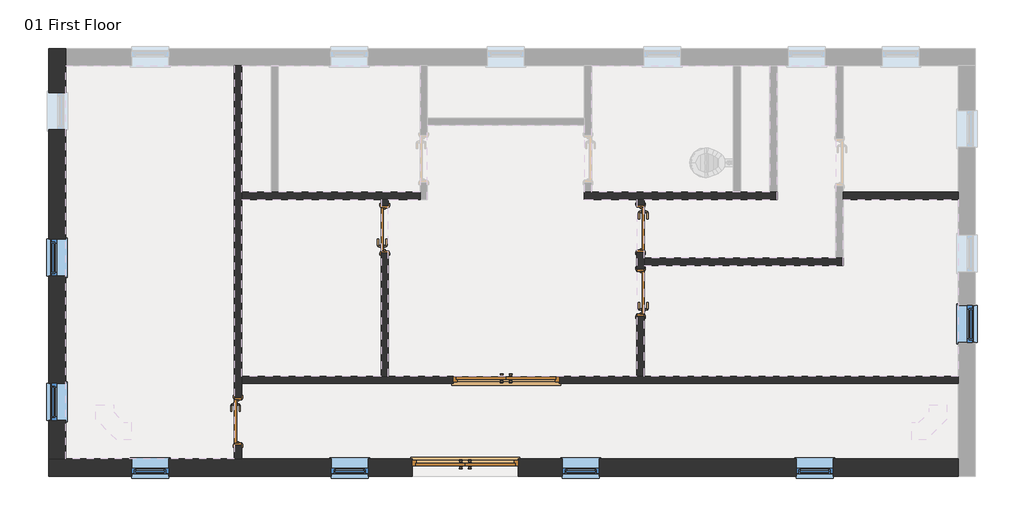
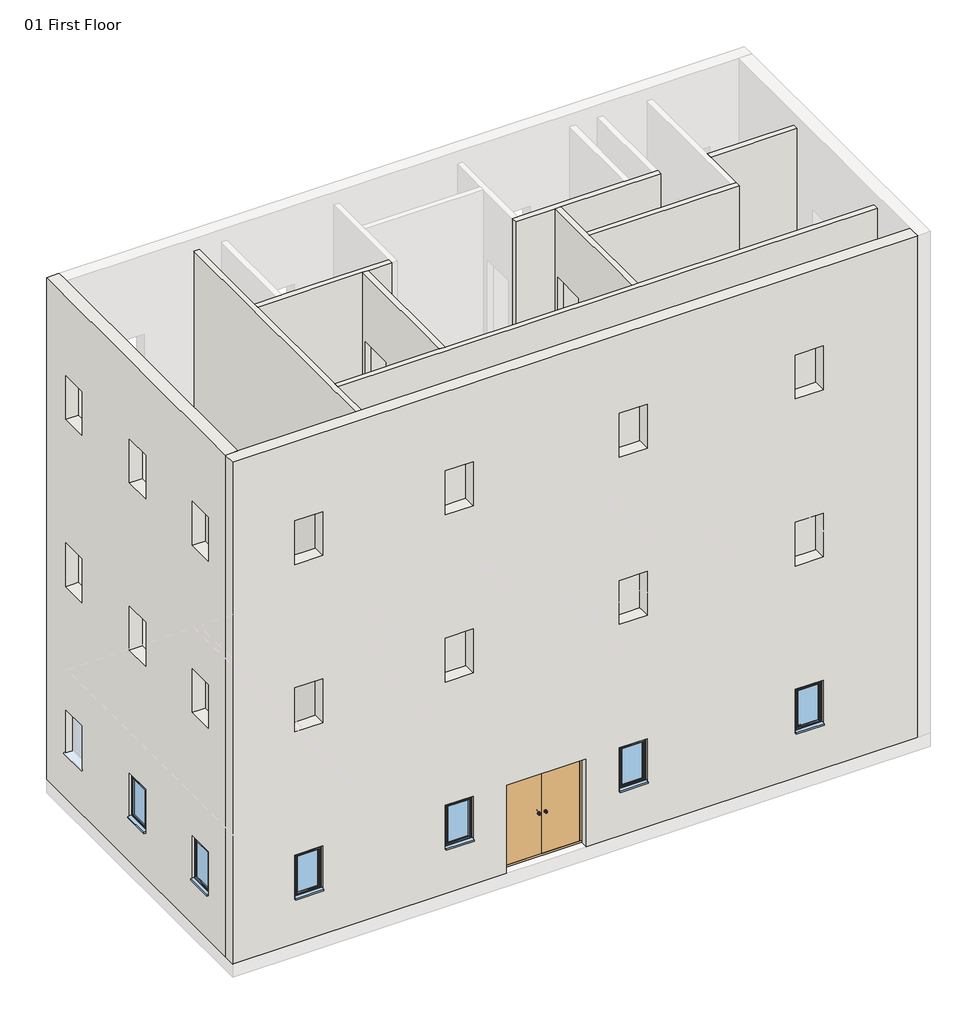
# One storey, part 1 of 2: 10 walls, 7 windows, 6 doors.
"""IFC4 building model written with IfcOpenShell, lengths in millimetres."""

from ifc_helpers import new_model, si_unit, frame, origin, origin_with_axes, place, context, project, spatial, polyline, outline, extrude, faceted_brep, transform, mapped, element, save
from components import extdbl_flush_1810_x_2110mm_6485e741, extdbl_flush_1810_x_2110mm_182ebfd7, intsgl_1_810_x_2110mm_5ef26f82, intsgl_1_810_x_2110mm_60c2a13c, sgl_plain_630_x_1050mm_deep_554a1539

model = new_model("IFC4")

# Units and contexts
model_context = context("Model", 3, world=origin())
ifc_project = project(units=[si_unit("LENGTHUNIT", "METRE", prefix="MILLI")], contexts=[model_context])

# Site, building, storey
site = spatial("IfcSite", under=ifc_project)
building = spatial("IfcBuilding", under=site)
storey = spatial("IfcBuildingStorey", under=building, Name="01 First Floor", Elevation=0.0)

# Doors
placement = place(None, origin())
extdbl_flush_1810_x_2110mm_shape = extdbl_flush_1810_x_2110mm_6485e741(model_context)
element("IfcDoor", 1, ObjectType="ExtDbl Flush : 1810 x 2110mm", at=placement, inside=storey, context=model_context, shape_type="MappedRepresentation", body=[
    mapped(extdbl_flush_1810_x_2110mm_shape, transform((500.7801388, -4965.3924179, 0.0), x_axis=(1.0, 0.0, 0.0), y_axis=(0.0, 1.0, 0.0), z_axis=(0.0, 0.0, 1.0))),
])
extdbl_flush_1810_x_2110mm_2_shape = extdbl_flush_1810_x_2110mm_182ebfd7(model_context)
element("IfcDoor", 2, ObjectType="ExtDbl Flush : 1810 x 2110mm", at=placement, inside=storey, context=model_context, shape_type="MappedRepresentation", body=[
    mapped(extdbl_flush_1810_x_2110mm_2_shape, transform((1196.9801388, -3470.3924179, 0.0), x_axis=(1.0, 0.0, 0.0), y_axis=(0.0, 1.0, 0.0), z_axis=(0.0, 0.0, 1.0))),
])
intsgl_1_810_x_2110mm_shape = intsgl_1_810_x_2110mm_5ef26f82(model_context)
element("IfcDoor", 3, ObjectType="IntSgl (1) : 810 x 2110mm", at=placement, inside=storey, context=model_context, shape_type="MappedRepresentation", body=[
    mapped(intsgl_1_810_x_2110mm_shape, transform((3489.4801388, -1982.8924179, 0.0), x_axis=(0.0, 1.0, 0.0), y_axis=(-1.0, 0.0, 0.0), z_axis=(0.0, 0.0, 1.0))),
])
intsgl_1_810_x_2110mm_2_shape = intsgl_1_810_x_2110mm_60c2a13c(model_context)
element("IfcDoor", 4, ObjectType="IntSgl (1) : 810 x 2110mm", at=placement, inside=storey, context=model_context, shape_type="MappedRepresentation", body=[
    mapped(intsgl_1_810_x_2110mm_2_shape, transform((-870.5198612, -902.8924179, 0.0), x_axis=(0.0, 1.0, 0.0), y_axis=(-1.0, 0.0, 0.0), z_axis=(0.0, 0.0, 1.0))),
])
element("IfcDoor", 5, ObjectType="IntSgl (1) : 810 x 2110mm", at=placement, inside=storey, context=model_context, shape_type="MappedRepresentation", body=[
    mapped(intsgl_1_810_x_2110mm_2_shape, transform((3489.4801388, -890.3924179, 0.0), x_axis=(0.0, -1.0, 0.0), y_axis=(1.0, 0.0, 0.0), z_axis=(0.0, 0.0, 1.0))),
])
element("IfcDoor", 6, ObjectType="IntSgl (1) : 810 x 2110mm", at=placement, inside=storey, context=model_context, shape_type="MappedRepresentation", body=[
    mapped(intsgl_1_810_x_2110mm_shape, transform((-3370.5198612, -4176.6424179, 0.0), x_axis=(0.0, -1.0, 0.0), y_axis=(1.0, 0.0, 0.0), z_axis=(0.0, 0.0, 1.0))),
])

# Walls
element("IfcWall", 7, ObjectType="Cav - 102 75i 100 p - Lwt", at=placement, inside=storey, context=model_context, shape_type="Brep", body=[
    faceted_brep([(1405.7801388, -5110.3924179, 2110.0), (1405.7801388, -5110.3924179, 0.0), (8901.9801388, -5110.3924179, 0.0), (8901.9801388, -5110.3924179, 12000.0), (-6598.0198612, -5110.3924179, 12000.0), (-6598.0198612, -5110.3924179, 0.0), (-404.2198612, -5110.3924179, 0.0), (-404.2198612, -5110.3924179, 2110.0), (6768.3801388, -5110.3924179, 2110.0), (6768.3801388, -5110.3924179, 1060.0), (6138.3801388, -5110.3924179, 1060.0), (6138.3801388, -5110.3924179, 2110.0), (2785.5801388, -5110.3924179, 2110.0), (2785.5801388, -5110.3924179, 1060.0), (2155.5801388, -5110.3924179, 1060.0), (2155.5801388, -5110.3924179, 2110.0), (-1154.0198612, -5110.3924179, 2110.0), (-1154.0198612, -5110.3924179, 1060.0), (-1784.0198612, -5110.3924179, 1060.0), (-1784.0198612, -5110.3924179, 2110.0), (-4555.5198612, -5110.3924179, 2110.0), (-4555.5198612, -5110.3924179, 1060.0), (-5185.5198612, -5110.3924179, 1060.0), (-5185.5198612, -5110.3924179, 2110.0), (-4555.5198612, -5110.3924179, 6110.0), (-4555.5198612, -5110.3924179, 5060.0), (-5185.5198612, -5110.3924179, 5060.0), (-5185.5198612, -5110.3924179, 6110.0), (-1154.0198612, -5110.3924179, 6110.0), (-1154.0198612, -5110.3924179, 5060.0), (-1784.0198612, -5110.3924179, 5060.0), (-1784.0198612, -5110.3924179, 6110.0), (2785.5801388, -5110.3924179, 6110.0), (2785.5801388, -5110.3924179, 5060.0), (2155.5801388, -5110.3924179, 5060.0), (2155.5801388, -5110.3924179, 6110.0), (6768.3801388, -5110.3924179, 6110.0), (6768.3801388, -5110.3924179, 5060.0), (6138.3801388, -5110.3924179, 5060.0), (6138.3801388, -5110.3924179, 6110.0), (-4555.5198612, -5110.3924179, 10110.0), (-4555.5198612, -5110.3924179, 9060.0), (-5185.5198612, -5110.3924179, 9060.0), (-5185.5198612, -5110.3924179, 10110.0), (-1154.0198612, -5110.3924179, 10110.0), (-1154.0198612, -5110.3924179, 9060.0), (-1784.0198612, -5110.3924179, 9060.0), (-1784.0198612, -5110.3924179, 10110.0), (2785.5801388, -5110.3924179, 10110.0), (2785.5801388, -5110.3924179, 9060.0), (2155.5801388, -5110.3924179, 9060.0), (2155.5801388, -5110.3924179, 10110.0), (6768.3801388, -5110.3924179, 10110.0), (6768.3801388, -5110.3924179, 9060.0), (6138.3801388, -5110.3924179, 9060.0), (6138.3801388, -5110.3924179, 10110.0), (8901.9801388, -4820.3924179, 0.0), (1405.7801388, -4820.3924179, 0.0), (1405.7801388, -4820.3924179, 2110.0), (-404.2198612, -4820.3924179, 2110.0), (-404.2198612, -4820.3924179, 0.0), (-3308.0198612, -4820.3924179, 0.0), (-3433.0198612, -4820.3924179, 0.0), (-6308.0198612, -4820.3924179, 0.0), (-6598.0198612, -4820.3924179, 0.0), (-6598.0198612, -4820.3924179, 12000.0), (-6308.0198612, -4820.3924179, 12000.0), (8901.9801388, -4820.3924179, 12000.0), (6768.3801388, -4820.3924179, 2110.0), (6138.3801388, -4820.3924179, 2110.0), (6138.3801388, -4820.3924179, 1060.0), (6768.3801388, -4820.3924179, 1060.0), (2785.5801388, -4820.3924179, 2110.0), (2155.5801388, -4820.3924179, 2110.0), (2155.5801388, -4820.3924179, 1060.0), (2785.5801388, -4820.3924179, 1060.0), (-1154.0198612, -4820.3924179, 2110.0), (-1784.0198612, -4820.3924179, 2110.0), (-1784.0198612, -4820.3924179, 1060.0), (-1154.0198612, -4820.3924179, 1060.0), (-4555.5198612, -4820.3924179, 2110.0), (-5185.5198612, -4820.3924179, 2110.0), (-5185.5198612, -4820.3924179, 1060.0), (-4555.5198612, -4820.3924179, 1060.0), (-4555.5198612, -4820.3924179, 6110.0), (-5185.5198612, -4820.3924179, 6110.0), (-5185.5198612, -4820.3924179, 5060.0), (-4555.5198612, -4820.3924179, 5060.0), (-1154.0198612, -4820.3924179, 6110.0), (-1784.0198612, -4820.3924179, 6110.0), (-1784.0198612, -4820.3924179, 5060.0), (-1154.0198612, -4820.3924179, 5060.0), (2785.5801388, -4820.3924179, 6110.0), (2155.5801388, -4820.3924179, 6110.0), (2155.5801388, -4820.3924179, 5060.0), (2785.5801388, -4820.3924179, 5060.0), (6768.3801388, -4820.3924179, 6110.0), (6138.3801388, -4820.3924179, 6110.0), (6138.3801388, -4820.3924179, 5060.0), (6768.3801388, -4820.3924179, 5060.0), (-4555.5198612, -4820.3924179, 10110.0), (-5185.5198612, -4820.3924179, 10110.0), (-5185.5198612, -4820.3924179, 9060.0), (-4555.5198612, -4820.3924179, 9060.0), (-1154.0198612, -4820.3924179, 10110.0), (-1784.0198612, -4820.3924179, 10110.0), (-1784.0198612, -4820.3924179, 9060.0), (-1154.0198612, -4820.3924179, 9060.0), (2785.5801388, -4820.3924179, 10110.0), (2155.5801388, -4820.3924179, 10110.0), (2155.5801388, -4820.3924179, 9060.0), (2785.5801388, -4820.3924179, 9060.0), (6768.3801388, -4820.3924179, 10110.0), (6138.3801388, -4820.3924179, 10110.0), (6138.3801388, -4820.3924179, 9060.0), (6768.3801388, -4820.3924179, 9060.0)], [[[0, 1, 2, 3, 4, 5, 6, 7], [8, 9, 10, 11], [12, 13, 14, 15], [16, 17, 18, 19], [20, 21, 22, 23], [24, 25, 26, 27], [28, 29, 30, 31], [32, 33, 34, 35], [36, 37, 38, 39], [40, 41, 42, 43], [44, 45, 46, 47], [48, 49, 50, 51], [52, 53, 54, 55]], [[56, 57, 58, 59, 60, 61, 62, 63, 64, 65, 66, 67], [68, 69, 70, 71], [72, 73, 74, 75], [76, 77, 78, 79], [80, 81, 82, 83], [84, 85, 86, 87], [88, 89, 90, 91], [92, 93, 94, 95], [96, 97, 98, 99], [100, 101, 102, 103], [104, 105, 106, 107], [108, 109, 110, 111], [112, 113, 114, 115]], [[6, 5, 64, 63, 62, 61, 60]], [[2, 1, 57, 56]], [[4, 3, 67, 66, 65]], [[5, 4, 65, 64]], [[3, 2, 56, 67]], [[9, 8, 68, 71]], [[10, 9, 71, 70]], [[11, 10, 70, 69]], [[8, 11, 69, 68]], [[13, 12, 72, 75]], [[14, 13, 75, 74]], [[15, 14, 74, 73]], [[12, 15, 73, 72]], [[17, 16, 76, 79]], [[18, 17, 79, 78]], [[19, 18, 78, 77]], [[16, 19, 77, 76]], [[21, 20, 80, 83]], [[22, 21, 83, 82]], [[23, 22, 82, 81]], [[20, 23, 81, 80]], [[60, 59, 7, 6]], [[58, 57, 1, 0]], [[59, 58, 0, 7]], [[25, 24, 84, 87]], [[26, 25, 87, 86]], [[27, 26, 86, 85]], [[24, 27, 85, 84]], [[29, 28, 88, 91]], [[30, 29, 91, 90]], [[31, 30, 90, 89]], [[28, 31, 89, 88]], [[33, 32, 92, 95]], [[34, 33, 95, 94]], [[35, 34, 94, 93]], [[32, 35, 93, 92]], [[37, 36, 96, 99]], [[38, 37, 99, 98]], [[39, 38, 98, 97]], [[36, 39, 97, 96]], [[41, 40, 100, 103]], [[42, 41, 103, 102]], [[43, 42, 102, 101]], [[40, 43, 101, 100]], [[45, 44, 104, 107]], [[46, 45, 107, 106]], [[47, 46, 106, 105]], [[44, 47, 105, 104]], [[49, 48, 108, 111]], [[50, 49, 111, 110]], [[51, 50, 110, 109]], [[48, 51, 109, 108]], [[53, 52, 112, 115]], [[54, 53, 115, 114]], [[55, 54, 114, 113]], [[52, 55, 113, 112]]]),
])
element("IfcWall", 8, ObjectType="Cav - 102 75i 100 p - Lwt", at=placement, inside=storey, context=model_context, shape_type="Brep", body=[
    faceted_brep([(-6598.0198612, 2179.6075821, 0.0), (-6598.0198612, -4820.3924179, 0.0), (-6598.0198612, -4820.3924179, 12000.0), (-6598.0198612, 2179.6075821, 12000.0), (-6598.0198612, -4159.9924179, 2110.0), (-6598.0198612, -4159.9924179, 1060.0), (-6598.0198612, -3529.9924179, 1060.0), (-6598.0198612, -3529.9924179, 2110.0), (-6598.0198612, -1701.1924179, 2110.0), (-6598.0198612, -1701.1924179, 1060.0), (-6598.0198612, -1071.1924179, 1060.0), (-6598.0198612, -1071.1924179, 2110.0), (-6598.0198612, 1432.4075821, 2110.0), (-6598.0198612, 802.4075821, 2110.0), (-6598.0198612, 802.4075821, 1060.0), (-6598.0198612, 1432.4075821, 1060.0), (-6598.0198612, 1432.4075821, 6110.0), (-6598.0198612, 802.4075821, 6110.0), (-6598.0198612, 802.4075821, 5060.0), (-6598.0198612, 1432.4075821, 5060.0), (-6598.0198612, -1701.1924179, 6110.0), (-6598.0198612, -1701.1924179, 5060.0), (-6598.0198612, -1071.1924179, 5060.0), (-6598.0198612, -1071.1924179, 6110.0), (-6598.0198612, -4159.9924179, 6110.0), (-6598.0198612, -4159.9924179, 5060.0), (-6598.0198612, -3529.9924179, 5060.0), (-6598.0198612, -3529.9924179, 6110.0), (-6598.0198612, 1432.4075821, 10110.0), (-6598.0198612, 802.4075821, 10110.0), (-6598.0198612, 802.4075821, 9060.0), (-6598.0198612, 1432.4075821, 9060.0), (-6598.0198612, -1701.1924179, 10110.0), (-6598.0198612, -1701.1924179, 9060.0), (-6598.0198612, -1071.1924179, 9060.0), (-6598.0198612, -1071.1924179, 10110.0), (-6598.0198612, -4159.9924179, 10110.0), (-6598.0198612, -4159.9924179, 9060.0), (-6598.0198612, -3529.9924179, 9060.0), (-6598.0198612, -3529.9924179, 10110.0), (-6308.0198612, 2179.6075821, 0.0), (-6308.0198612, 2179.6075821, 12000.0), (-6308.0198612, 1889.6075821, 12000.0), (-6308.0198612, -4820.3924179, 12000.0), (-6308.0198612, -4820.3924179, 0.0), (-6308.0198612, 1889.6075821, 0.0), (-6308.0198612, -4159.9924179, 2110.0), (-6308.0198612, -3529.9924179, 2110.0), (-6308.0198612, -3529.9924179, 1060.0), (-6308.0198612, -4159.9924179, 1060.0), (-6308.0198612, -1701.1924179, 2110.0), (-6308.0198612, -1071.1924179, 2110.0), (-6308.0198612, -1071.1924179, 1060.0), (-6308.0198612, -1701.1924179, 1060.0), (-6308.0198612, 1432.4075821, 2110.0), (-6308.0198612, 1432.4075821, 1060.0), (-6308.0198612, 802.4075821, 1060.0), (-6308.0198612, 802.4075821, 2110.0), (-6308.0198612, 1432.4075821, 6110.0), (-6308.0198612, 1432.4075821, 5060.0), (-6308.0198612, 802.4075821, 5060.0), (-6308.0198612, 802.4075821, 6110.0), (-6308.0198612, -1701.1924179, 6110.0), (-6308.0198612, -1071.1924179, 6110.0), (-6308.0198612, -1071.1924179, 5060.0), (-6308.0198612, -1701.1924179, 5060.0), (-6308.0198612, -4159.9924179, 6110.0), (-6308.0198612, -3529.9924179, 6110.0), (-6308.0198612, -3529.9924179, 5060.0), (-6308.0198612, -4159.9924179, 5060.0), (-6308.0198612, 1432.4075821, 10110.0), (-6308.0198612, 1432.4075821, 9060.0), (-6308.0198612, 802.4075821, 9060.0), (-6308.0198612, 802.4075821, 10110.0), (-6308.0198612, -1701.1924179, 10110.0), (-6308.0198612, -1071.1924179, 10110.0), (-6308.0198612, -1071.1924179, 9060.0), (-6308.0198612, -1701.1924179, 9060.0), (-6308.0198612, -4159.9924179, 10110.0), (-6308.0198612, -3529.9924179, 10110.0), (-6308.0198612, -3529.9924179, 9060.0), (-6308.0198612, -4159.9924179, 9060.0)], [[[0, 1, 2, 3], [4, 5, 6, 7], [8, 9, 10, 11], [12, 13, 14, 15], [16, 17, 18, 19], [20, 21, 22, 23], [24, 25, 26, 27], [28, 29, 30, 31], [32, 33, 34, 35], [36, 37, 38, 39]], [[40, 41, 42, 43, 44, 45], [46, 47, 48, 49], [50, 51, 52, 53], [54, 55, 56, 57], [58, 59, 60, 61], [62, 63, 64, 65], [66, 67, 68, 69], [70, 71, 72, 73], [74, 75, 76, 77], [78, 79, 80, 81]], [[1, 0, 40, 45, 44]], [[3, 2, 43, 42, 41]], [[0, 3, 41, 40]], [[2, 1, 44, 43]], [[5, 4, 46, 49]], [[6, 5, 49, 48]], [[7, 6, 48, 47]], [[4, 7, 47, 46]], [[9, 8, 50, 53]], [[10, 9, 53, 52]], [[11, 10, 52, 51]], [[8, 11, 51, 50]], [[55, 54, 12, 15]], [[56, 55, 15, 14]], [[57, 56, 14, 13]], [[54, 57, 13, 12]], [[59, 58, 16, 19]], [[60, 59, 19, 18]], [[61, 60, 18, 17]], [[58, 61, 17, 16]], [[21, 20, 62, 65]], [[22, 21, 65, 64]], [[23, 22, 64, 63]], [[20, 23, 63, 62]], [[25, 24, 66, 69]], [[26, 25, 69, 68]], [[27, 26, 68, 67]], [[24, 27, 67, 66]], [[71, 70, 28, 31]], [[72, 71, 31, 30]], [[73, 72, 30, 29]], [[70, 73, 29, 28]], [[33, 32, 74, 77]], [[34, 33, 77, 76]], [[35, 34, 76, 75]], [[32, 35, 75, 74]], [[37, 36, 78, 81]], [[38, 37, 81, 80]], [[39, 38, 80, 79]], [[36, 39, 79, 78]]]),
])
element("IfcWall", 9, ObjectType="Partn - p 100 p - Block", at=placement, inside=storey, context=model_context, shape_type="Brep", body=[
    faceted_brep([(-270.5198612, -265.3924179, 0.0), (-2683.0198612, -265.3924179, 0.0), (-2808.0198612, -265.3924179, 0.0), (-3308.0198612, -265.3924179, 0.0), (-3308.0198612, -265.3924179, 11700.0), (-2808.0198612, -265.3924179, 11700.0), (-2683.0198612, -265.3924179, 11700.0), (-270.5198612, -265.3924179, 11700.0), (-270.5198612, -390.3924179, 0.0), (-270.5198612, -390.3924179, 11700.0), (-808.0198612, -390.3924179, 11700.0), (-933.0198612, -390.3924179, 11700.0), (-3308.0198612, -390.3924179, 11700.0), (-3308.0198612, -390.3924179, 0.0), (-933.0198612, -390.3924179, 0.0), (-808.0198612, -390.3924179, 0.0)], [[[0, 1, 2, 3, 4, 5, 6, 7]], [[8, 9, 10, 11, 12, 13, 14, 15]], [[3, 2, 1, 0, 8, 15, 14, 13]], [[7, 6, 5, 4, 12, 11, 10, 9]], [[4, 3, 13, 12]], [[0, 7, 9, 8]]]),
])
element("IfcWall", 10, ObjectType="Partn - p 100 p - Block", at=placement, inside=storey, context=model_context, shape_type="Brep", body=[
    faceted_brep([(-3308.0198612, 1889.6075821, 11700.0), (-3308.0198612, -265.3924179, 11700.0), (-3308.0198612, -390.3924179, 11700.0), (-3308.0198612, -3407.8924179, 11700.0), (-3308.0198612, -3532.8924179, 11700.0), (-3308.0198612, -4820.3924179, 11700.0), (-3308.0198612, -4820.3924179, 0.0), (-3308.0198612, -4581.6424179, 0.0), (-3308.0198612, -4581.6424179, 2110.0), (-3308.0198612, -3771.6424179, 2110.0), (-3308.0198612, -3771.6424179, 0.0), (-3308.0198612, -3532.8924179, 0.0), (-3308.0198612, -3407.8924179, 0.0), (-3308.0198612, -390.3924179, 0.0), (-3308.0198612, -265.3924179, 0.0), (-3308.0198612, 1889.6075821, 0.0), (-3308.0198612, -4581.6424179, 4000.0), (-3308.0198612, -4581.6424179, 6110.0), (-3308.0198612, -3771.6424179, 6110.0), (-3308.0198612, -3771.6424179, 4000.0), (-3308.0198612, -4581.6424179, 8000.0), (-3308.0198612, -4581.6424179, 10110.0), (-3308.0198612, -3771.6424179, 10110.0), (-3308.0198612, -3771.6424179, 8000.0), (-3433.0198612, -4820.3924179, 11700.0), (-3433.0198612, 1889.6075821, 11700.0), (-3433.0198612, 1889.6075821, 0.0), (-3433.0198612, -3771.6424179, 0.0), (-3433.0198612, -3771.6424179, 2110.0), (-3433.0198612, -4581.6424179, 2110.0), (-3433.0198612, -4581.6424179, 0.0), (-3433.0198612, -4820.3924179, 0.0), (-3433.0198612, -4581.6424179, 4000.0), (-3433.0198612, -3771.6424179, 4000.0), (-3433.0198612, -3771.6424179, 6110.0), (-3433.0198612, -4581.6424179, 6110.0), (-3433.0198612, -4581.6424179, 8000.0), (-3433.0198612, -3771.6424179, 8000.0), (-3433.0198612, -3771.6424179, 10110.0), (-3433.0198612, -4581.6424179, 10110.0)], [[[0, 1, 2, 3, 4, 5, 6, 7, 8, 9, 10, 11, 12, 13, 14, 15], [16, 17, 18, 19], [20, 21, 22, 23]], [[24, 25, 26, 27, 28, 29, 30, 31], [32, 33, 34, 35], [36, 37, 38, 39]], [[26, 15, 14, 13, 12, 11, 10, 27]], [[6, 31, 30, 7]], [[5, 4, 3, 2, 1, 0, 25, 24]], [[0, 15, 26, 25]], [[6, 5, 24, 31]], [[29, 8, 7, 30]], [[8, 29, 28, 9]], [[9, 28, 27, 10]], [[17, 16, 32, 35]], [[18, 17, 35, 34]], [[19, 18, 34, 33]], [[16, 19, 33, 32]], [[21, 20, 36, 39]], [[22, 21, 39, 38]], [[23, 22, 38, 37]], [[20, 23, 37, 36]]]),
])
element("IfcWall", 11, ObjectType="Partn - p 100 p - Block", at=placement, inside=storey, context=model_context, shape_type="Brep", body=[
    faceted_brep([(2529.4801388, -390.3924179, 0.0), (3426.9801388, -390.3924179, 0.0), (3551.9801388, -390.3924179, 0.0), (5816.9801388, -390.3924179, 0.0), (5816.9801388, -390.3924179, 11700.0), (3551.9801388, -390.3924179, 11700.0), (3426.9801388, -390.3924179, 11700.0), (2529.4801388, -390.3924179, 11700.0), (2529.4801388, -265.3924179, 0.0), (2529.4801388, -265.3924179, 11700.0), (2654.4801388, -265.3924179, 11700.0), (5066.9801388, -265.3924179, 11700.0), (5191.9801388, -265.3924179, 11700.0), (5691.9801388, -265.3924179, 11700.0), (5816.9801388, -265.3924179, 11700.0), (5816.9801388, -265.3924179, 0.0), (5691.9801388, -265.3924179, 0.0), (5191.9801388, -265.3924179, 0.0), (5066.9801388, -265.3924179, 0.0), (2654.4801388, -265.3924179, 0.0)], [[[0, 1, 2, 3, 4, 5, 6, 7]], [[8, 9, 10, 11, 12, 13, 14, 15, 16, 17, 18, 19]], [[3, 2, 1, 0, 8, 19, 18, 17, 16, 15]], [[7, 6, 5, 4, 14, 13, 12, 11, 10, 9]], [[4, 3, 15, 14]], [[0, 7, 9, 8]]]),
])
element("IfcWall", 12, ObjectType="Partn - p 100 p - Block", at=placement, inside=storey, context=model_context, shape_type="SweptSolid", body=[
    extrude(outline(polyline([(-3407.8924179, 11700.0), (-390.3924179, 11700.0), (-390.3924179, 0.0), (-497.8924179, 0.0), (-497.8924179, 2110.0), (-1307.8924179, 2110.0), (-1307.8924179, 0.0), (-3407.8924179, 0.0), (-3407.8924179, 11700.0)]), holes=[polyline([(-497.8924179, 4000.0), (-497.8924179, 6110.0), (-1307.8924179, 6110.0), (-1307.8924179, 4000.0), (-497.8924179, 4000.0)]), polyline([(-497.8924179, 8000.0), (-497.8924179, 10110.0), (-1307.8924179, 10110.0), (-1307.8924179, 8000.0), (-497.8924179, 8000.0)])]), frame((-933.0198612, 0.0, 0.0), z_axis=(1.0, 0.0, 0.0), x_axis=(0.0, 1.0, 0.0)), (0.0, 0.0, 1.0), 125.0),
])
element("IfcWall", 13, ObjectType="Partn - p 100 p - Block", at=placement, inside=storey, context=model_context, shape_type="Brep", body=[
    faceted_brep([(2101.9801388, -3532.8924179, 2110.0), (2101.9801388, -3532.8924179, 0.0), (8901.9801388, -3532.8924179, 0.0), (8901.9801388, -3532.8924179, 11700.0), (-3308.0198612, -3532.8924179, 11700.0), (-3308.0198612, -3532.8924179, 0.0), (291.9801388, -3532.8924179, 0.0), (291.9801388, -3532.8924179, 2110.0), (291.9801388, -3532.8924179, 6110.0), (2101.9801388, -3532.8924179, 6110.0), (2101.9801388, -3532.8924179, 4000.0), (291.9801388, -3532.8924179, 4000.0), (291.9801388, -3532.8924179, 10110.0), (2101.9801388, -3532.8924179, 10110.0), (2101.9801388, -3532.8924179, 8000.0), (291.9801388, -3532.8924179, 8000.0), (8901.9801388, -3407.8924179, 0.0), (3551.9801388, -3407.8924179, 0.0), (3426.9801388, -3407.8924179, 0.0), (2101.9801388, -3407.8924179, 0.0), (2101.9801388, -3407.8924179, 2110.0), (291.9801388, -3407.8924179, 2110.0), (291.9801388, -3407.8924179, 0.0), (-808.0198612, -3407.8924179, 0.0), (-933.0198612, -3407.8924179, 0.0), (-3308.0198612, -3407.8924179, 0.0), (-3308.0198612, -3407.8924179, 11700.0), (-933.0198612, -3407.8924179, 11700.0), (-808.0198612, -3407.8924179, 11700.0), (3426.9801388, -3407.8924179, 11700.0), (3551.9801388, -3407.8924179, 11700.0), (8901.9801388, -3407.8924179, 11700.0), (291.9801388, -3407.8924179, 6110.0), (291.9801388, -3407.8924179, 4000.0), (2101.9801388, -3407.8924179, 4000.0), (2101.9801388, -3407.8924179, 6110.0), (291.9801388, -3407.8924179, 10110.0), (291.9801388, -3407.8924179, 8000.0), (2101.9801388, -3407.8924179, 8000.0), (2101.9801388, -3407.8924179, 10110.0)], [[[0, 1, 2, 3, 4, 5, 6, 7], [8, 9, 10, 11], [12, 13, 14, 15]], [[16, 17, 18, 19, 20, 21, 22, 23, 24, 25, 26, 27, 28, 29, 30, 31], [32, 33, 34, 35], [36, 37, 38, 39]], [[6, 5, 25, 24, 23, 22]], [[2, 1, 19, 18, 17, 16]], [[4, 3, 31, 30, 29, 28, 27, 26]], [[3, 2, 16, 31]], [[22, 21, 7, 6]], [[20, 19, 1, 0]], [[21, 20, 0, 7]], [[5, 4, 26, 25]], [[33, 32, 8, 11]], [[34, 33, 11, 10]], [[35, 34, 10, 9]], [[32, 35, 9, 8]], [[37, 36, 12, 15]], [[38, 37, 15, 14]], [[39, 38, 14, 13]], [[36, 39, 13, 12]]]),
])
element("IfcWall", 14, ObjectType="Partn - p 100 p - Block", at=placement, inside=storey, context=model_context, shape_type="Brep", body=[
    faceted_brep([(3551.9801388, -390.3924179, 11700.0), (3551.9801388, -1390.3924179, 11700.0), (3551.9801388, -1515.3924179, 11700.0), (3551.9801388, -3407.8924179, 11700.0), (3551.9801388, -3407.8924179, 0.0), (3551.9801388, -2387.8924179, 0.0), (3551.9801388, -2387.8924179, 2110.0), (3551.9801388, -1577.8924179, 2110.0), (3551.9801388, -1577.8924179, 0.0), (3551.9801388, -1515.3924179, 0.0), (3551.9801388, -1390.3924179, 0.0), (3551.9801388, -1295.3924179, 0.0), (3551.9801388, -1295.3924179, 2110.0), (3551.9801388, -485.3924179, 2110.0), (3551.9801388, -485.3924179, 0.0), (3551.9801388, -390.3924179, 0.0), (3551.9801388, -1295.3924179, 4000.0), (3551.9801388, -1295.3924179, 6110.0), (3551.9801388, -485.3924179, 6110.0), (3551.9801388, -485.3924179, 4000.0), (3551.9801388, -1577.8924179, 4000.0), (3551.9801388, -2387.8924179, 4000.0), (3551.9801388, -2387.8924179, 6110.0), (3551.9801388, -1577.8924179, 6110.0), (3551.9801388, -1295.3924179, 8000.0), (3551.9801388, -1295.3924179, 10110.0), (3551.9801388, -485.3924179, 10110.0), (3551.9801388, -485.3924179, 8000.0), (3551.9801388, -1577.8924179, 8000.0), (3551.9801388, -2387.8924179, 8000.0), (3551.9801388, -2387.8924179, 10110.0), (3551.9801388, -1577.8924179, 10110.0), (3426.9801388, -3407.8924179, 11700.0), (3426.9801388, -390.3924179, 11700.0), (3426.9801388, -390.3924179, 0.0), (3426.9801388, -485.3924179, 0.0), (3426.9801388, -485.3924179, 2110.0), (3426.9801388, -1295.3924179, 2110.0), (3426.9801388, -1295.3924179, 0.0), (3426.9801388, -1577.8924179, 0.0), (3426.9801388, -1577.8924179, 2110.0), (3426.9801388, -2387.8924179, 2110.0), (3426.9801388, -2387.8924179, 0.0), (3426.9801388, -3407.8924179, 0.0), (3426.9801388, -1295.3924179, 4000.0), (3426.9801388, -485.3924179, 4000.0), (3426.9801388, -485.3924179, 6110.0), (3426.9801388, -1295.3924179, 6110.0), (3426.9801388, -1577.8924179, 4000.0), (3426.9801388, -1577.8924179, 6110.0), (3426.9801388, -2387.8924179, 6110.0), (3426.9801388, -2387.8924179, 4000.0), (3426.9801388, -1295.3924179, 8000.0), (3426.9801388, -485.3924179, 8000.0), (3426.9801388, -485.3924179, 10110.0), (3426.9801388, -1295.3924179, 10110.0), (3426.9801388, -1577.8924179, 8000.0), (3426.9801388, -1577.8924179, 10110.0), (3426.9801388, -2387.8924179, 10110.0), (3426.9801388, -2387.8924179, 8000.0)], [[[0, 1, 2, 3, 4, 5, 6, 7, 8, 9, 10, 11, 12, 13, 14, 15], [16, 17, 18, 19], [20, 21, 22, 23], [24, 25, 26, 27], [28, 29, 30, 31]], [[32, 33, 34, 35, 36, 37, 38, 39, 40, 41, 42, 43], [44, 45, 46, 47], [48, 49, 50, 51], [52, 53, 54, 55], [56, 57, 58, 59]], [[34, 15, 14, 35]], [[4, 43, 42, 5]], [[8, 39, 38, 11, 10, 9]], [[3, 2, 1, 0, 33, 32]], [[0, 15, 34, 33]], [[4, 3, 32, 43]], [[7, 40, 39, 8]], [[40, 7, 6, 41]], [[41, 6, 5, 42]], [[37, 12, 11, 38]], [[12, 37, 36, 13]], [[13, 36, 35, 14]], [[17, 16, 44, 47]], [[18, 17, 47, 46]], [[19, 18, 46, 45]], [[16, 19, 45, 44]], [[49, 48, 20, 23]], [[50, 49, 23, 22]], [[51, 50, 22, 21]], [[48, 51, 21, 20]], [[25, 24, 52, 55]], [[26, 25, 55, 54]], [[27, 26, 54, 53]], [[24, 27, 53, 52]], [[57, 56, 28, 31]], [[58, 57, 31, 30]], [[59, 58, 30, 29]], [[56, 59, 29, 28]]]),
])
element("IfcWall", 15, ObjectType="Partn - p 100 p - Block", at=placement, inside=storey, context=model_context, shape_type="SweptSolid", body=[
    extrude(outline(polyline([(8901.9801388, -390.3924179), (6941.9801388, -390.3924179), (6941.9801388, -265.3924179), (8901.9801388, -265.3924179), (8901.9801388, -390.3924179)])), origin_with_axes(), (0.0, 0.0, 1.0), 11700.0),
])
element("IfcWall", 16, ObjectType="Partn - p 100 p - Block", at=placement, inside=storey, context=model_context, shape_type="Brep", body=[
    faceted_brep([(3551.9801388, -1515.3924179, 0.0), (6941.9801388, -1515.3924179, 0.0), (6941.9801388, -1515.3924179, 11700.0), (3551.9801388, -1515.3924179, 11700.0), (3551.9801388, -1390.3924179, 0.0), (3551.9801388, -1390.3924179, 11700.0), (6816.9801388, -1390.3924179, 11700.0), (6941.9801388, -1390.3924179, 11700.0), (6941.9801388, -1390.3924179, 0.0), (6816.9801388, -1390.3924179, 0.0)], [[[0, 1, 2, 3]], [[4, 5, 6, 7, 8, 9]], [[1, 0, 4, 9, 8]], [[3, 2, 7, 6, 5]], [[0, 3, 5, 4]], [[2, 1, 8, 7]]]),
])

# Windows
sgl_plain_630_x_1050mm_deep_shape = sgl_plain_630_x_1050mm_deep_554a1539(model_context)
element("IfcWindow", 17, ObjectType="Sgl Plain : 630 x 1050mm Deep", at=placement, inside=storey, context=model_context, shape_type="MappedRepresentation", body=[
    mapped(sgl_plain_630_x_1050mm_deep_shape, transform((6453.3801388, -4956.9358501, 0.0), x_axis=(-1.0, 0.0, 0.0), y_axis=(0.0, -1.0, 0.0), z_axis=(0.0, 0.0, 1.0))),
])
element("IfcWindow", 18, ObjectType="Sgl Plain : 630 x 1050mm Deep", at=placement, inside=storey, context=model_context, shape_type="MappedRepresentation", body=[
    mapped(sgl_plain_630_x_1050mm_deep_shape, transform((2470.5801388, -4956.9358501, 0.0), x_axis=(-1.0, 0.0, 0.0), y_axis=(0.0, -1.0, 0.0), z_axis=(0.0, 0.0, 1.0))),
])
element("IfcWindow", 19, ObjectType="Sgl Plain : 630 x 1050mm Deep", at=placement, inside=storey, context=model_context, shape_type="MappedRepresentation", body=[
    mapped(sgl_plain_630_x_1050mm_deep_shape, transform((-1469.0198612, -4956.9358501, 0.0), x_axis=(-1.0, 0.0, 0.0), y_axis=(0.0, -1.0, 0.0), z_axis=(0.0, 0.0, 1.0))),
])
element("IfcWindow", 20, ObjectType="Sgl Plain : 630 x 1050mm Deep", at=placement, inside=storey, context=model_context, shape_type="MappedRepresentation", body=[
    mapped(sgl_plain_630_x_1050mm_deep_shape, transform((-4870.5198612, -4956.9358501, 0.0), x_axis=(-1.0, 0.0, 0.0), y_axis=(0.0, -1.0, 0.0), z_axis=(0.0, 0.0, 1.0))),
])
element("IfcWindow", 21, ObjectType="Sgl Plain : 630 x 1050mm Deep", at=placement, inside=storey, context=model_context, shape_type="MappedRepresentation", body=[
    mapped(sgl_plain_630_x_1050mm_deep_shape, transform((-6444.5632933, -3844.9924179, 0.0), x_axis=(0.0, 1.0, 0.0), y_axis=(-1.0, 0.0, 0.0), z_axis=(0.0, 0.0, 1.0))),
])
element("IfcWindow", 22, ObjectType="Sgl Plain : 630 x 1050mm Deep", at=placement, inside=storey, context=model_context, shape_type="MappedRepresentation", body=[
    mapped(sgl_plain_630_x_1050mm_deep_shape, transform((-6444.5632933, -1386.1924179, 0.0), x_axis=(0.0, 1.0, 0.0), y_axis=(-1.0, 0.0, 0.0), z_axis=(0.0, 0.0, 1.0))),
])
element("IfcWindow", 23, ObjectType="Sgl Plain : 630 x 1050mm Deep", at=placement, inside=storey, context=model_context, shape_type="MappedRepresentation", body=[
    mapped(sgl_plain_630_x_1050mm_deep_shape, transform((9038.523571, -2518.9424179, 0.0), x_axis=(0.0, -1.0, 0.0), y_axis=(1.0, 0.0, 0.0), z_axis=(0.0, 0.0, 1.0))),
])

save(model, "model.ifc")
